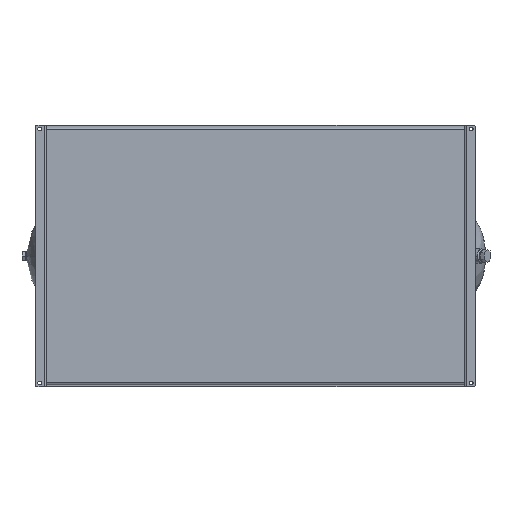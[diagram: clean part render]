
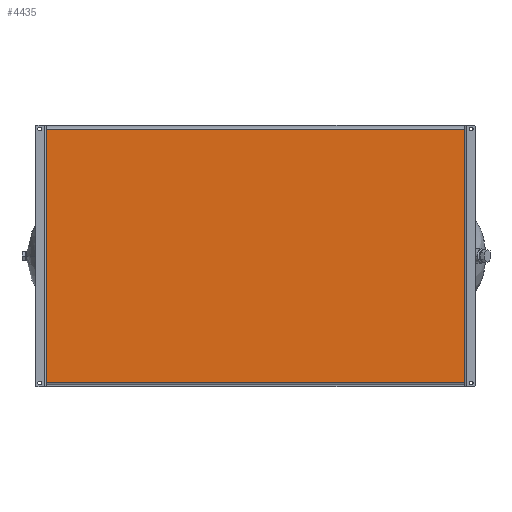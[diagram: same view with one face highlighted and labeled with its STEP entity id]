
A CAD part, front view. The second image highlights one B-rep face of the part: STEP entity #4435.
In plain terms, the highlighted planar face has unit normal (0, -1, 0).
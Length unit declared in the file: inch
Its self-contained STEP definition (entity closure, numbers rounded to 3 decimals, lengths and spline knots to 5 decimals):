
#351 = DIRECTION ( 'NONE',  ( 0., -1., 0. ) ) ;
#372 = ORIENTED_EDGE ( 'NONE', *, *, #5985, .F. ) ;
#410 = LINE ( 'NONE', #2020, #6950 ) ;
#585 = VECTOR ( 'NONE', #827, 39.37008 ) ;
#786 = AXIS2_PLACEMENT_3D ( 'NONE', #2098, #351, #6394 ) ;
#827 = DIRECTION ( 'NONE',  ( 0., 0., 1. ) ) ;
#968 = CARTESIAN_POINT ( 'NONE',  ( 0., 2.375, 14.75 ) ) ;
#1042 = ORIENTED_EDGE ( 'NONE', *, *, #2376, .T. ) ;
#1280 = EDGE_CURVE ( 'NONE', #3656, #1897, #2093, .T. ) ;
#1495 = LINE ( 'NONE', #6872, #3915 ) ;
#1520 = DIRECTION ( 'NONE',  ( -1., 0., 0. ) ) ;
#1897 = VERTEX_POINT ( 'NONE', #4598 ) ;
#1986 = CARTESIAN_POINT ( 'NONE',  ( 81.41771, 2.375, -14.553 ) ) ;
#2020 = CARTESIAN_POINT ( 'NONE',  ( 47.981, 2.375, 14.75 ) ) ;
#2093 = LINE ( 'NONE', #1986, #5519 ) ;
#2098 = CARTESIAN_POINT ( 'NONE',  ( 81.41771, 2.375, 14.75 ) ) ;
#2376 = EDGE_CURVE ( 'NONE', #4753, #6829, #1495, .T. ) ;
#2666 = CARTESIAN_POINT ( 'NONE',  ( 0., 2.375, 14.553 ) ) ;
#3412 = EDGE_LOOP ( 'NONE', ( #6766, #3642, #1042, #372 ) ) ;
#3637 = DIRECTION ( 'NONE',  ( 0., 0., 1. ) ) ;
#3642 = ORIENTED_EDGE ( 'NONE', *, *, #4762, .T. ) ;
#3656 = VERTEX_POINT ( 'NONE', #6110 ) ;
#3726 = DIRECTION ( 'NONE',  ( -1., 0., 0. ) ) ;
#3915 = VECTOR ( 'NONE', #3726, 39.37008 ) ;
#4435 = ADVANCED_FACE ( 'NONE', ( #7079 ), #5452, .T. ) ;
#4598 = CARTESIAN_POINT ( 'NONE',  ( 0., 2.375, -14.553 ) ) ;
#4753 = VERTEX_POINT ( 'NONE', #6496 ) ;
#4762 = EDGE_CURVE ( 'NONE', #3656, #4753, #410, .T. ) ;
#5446 = LINE ( 'NONE', #968, #585 ) ;
#5452 = PLANE ( 'NONE',  #786 ) ;
#5519 = VECTOR ( 'NONE', #1520, 39.37008 ) ;
#5985 = EDGE_CURVE ( 'NONE', #1897, #6829, #5446, .T. ) ;
#6110 = CARTESIAN_POINT ( 'NONE',  ( 47.981, 2.375, -14.553 ) ) ;
#6394 = DIRECTION ( 'NONE',  ( 0., 0., -1. ) ) ;
#6496 = CARTESIAN_POINT ( 'NONE',  ( 47.981, 2.375, 14.553 ) ) ;
#6766 = ORIENTED_EDGE ( 'NONE', *, *, #1280, .F. ) ;
#6829 = VERTEX_POINT ( 'NONE', #2666 ) ;
#6872 = CARTESIAN_POINT ( 'NONE',  ( 81.41771, 2.375, 14.553 ) ) ;
#6950 = VECTOR ( 'NONE', #3637, 39.37008 ) ;
#7079 = FACE_OUTER_BOUND ( 'NONE', #3412, .T. ) ;
